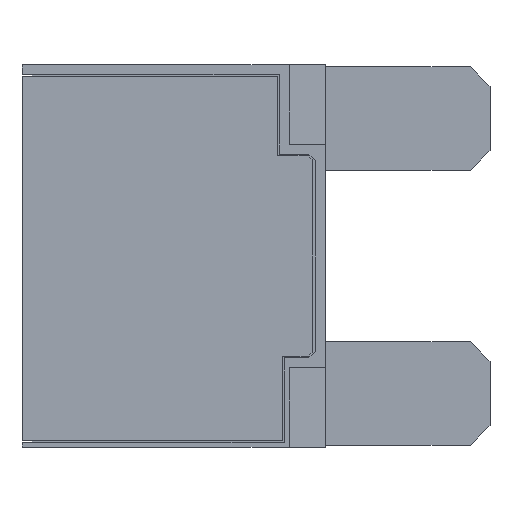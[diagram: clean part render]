
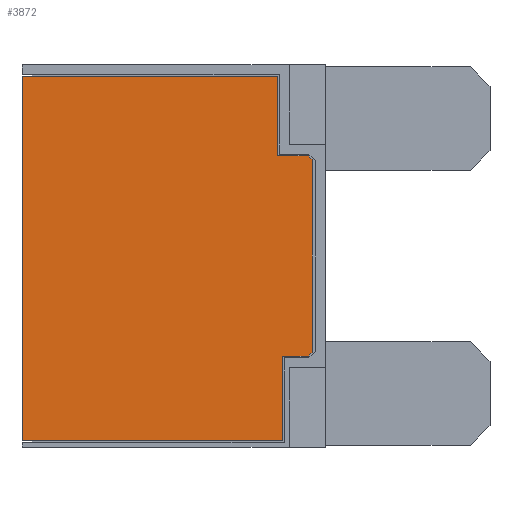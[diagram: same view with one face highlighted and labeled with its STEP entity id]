
A CAD part, left-side view. The second image highlights one B-rep face of the part: STEP entity #3872.
In plain terms, the highlighted planar face has unit normal (-1, 0, 0).
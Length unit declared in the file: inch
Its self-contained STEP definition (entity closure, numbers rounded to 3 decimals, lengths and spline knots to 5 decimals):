
#241=FACE_OUTER_BOUND('',#457,.T.);
#457=EDGE_LOOP('',(#3235,#3236,#3237,#3238,#3239,#3240,#3241,#3242,#3243,
#3244));
#891=LINE('',#6627,#1321);
#903=LINE('',#6656,#1333);
#907=LINE('',#6663,#1337);
#910=LINE('',#6669,#1340);
#913=LINE('',#6675,#1343);
#916=LINE('',#6681,#1346);
#919=LINE('',#6687,#1349);
#922=LINE('',#6693,#1352);
#923=LINE('',#6695,#1353);
#924=LINE('',#6696,#1354);
#1321=VECTOR('',#4465,0.3937);
#1333=VECTOR('',#4487,0.3937);
#1337=VECTOR('',#4493,0.3937);
#1340=VECTOR('',#4498,0.3937);
#1343=VECTOR('',#4503,0.3937);
#1346=VECTOR('',#4508,0.3937);
#1349=VECTOR('',#4513,0.3937);
#1352=VECTOR('',#4518,0.3937);
#1353=VECTOR('',#4521,0.3937);
#1354=VECTOR('',#4522,0.3937);
#1761=VERTEX_POINT('',#6624);
#1762=VERTEX_POINT('',#6626);
#1773=VERTEX_POINT('',#6653);
#1774=VERTEX_POINT('',#6655);
#1776=VERTEX_POINT('',#6661);
#1778=VERTEX_POINT('',#6667);
#1780=VERTEX_POINT('',#6673);
#1782=VERTEX_POINT('',#6679);
#1784=VERTEX_POINT('',#6685);
#1786=VERTEX_POINT('',#6691);
#2261=EDGE_CURVE('',#1761,#1762,#891,.T.);
#2273=EDGE_CURVE('',#1773,#1774,#903,.T.);
#2277=EDGE_CURVE('',#1776,#1773,#907,.T.);
#2280=EDGE_CURVE('',#1778,#1776,#910,.T.);
#2283=EDGE_CURVE('',#1780,#1778,#913,.T.);
#2286=EDGE_CURVE('',#1782,#1780,#916,.T.);
#2289=EDGE_CURVE('',#1784,#1782,#919,.T.);
#2292=EDGE_CURVE('',#1786,#1784,#922,.T.);
#2293=EDGE_CURVE('',#1774,#1761,#923,.T.);
#2294=EDGE_CURVE('',#1762,#1786,#924,.T.);
#3235=ORIENTED_EDGE('',*,*,#2293,.F.);
#3236=ORIENTED_EDGE('',*,*,#2273,.F.);
#3237=ORIENTED_EDGE('',*,*,#2277,.F.);
#3238=ORIENTED_EDGE('',*,*,#2280,.F.);
#3239=ORIENTED_EDGE('',*,*,#2283,.F.);
#3240=ORIENTED_EDGE('',*,*,#2286,.F.);
#3241=ORIENTED_EDGE('',*,*,#2289,.F.);
#3242=ORIENTED_EDGE('',*,*,#2292,.F.);
#3243=ORIENTED_EDGE('',*,*,#2294,.F.);
#3244=ORIENTED_EDGE('',*,*,#2261,.F.);
#3658=PLANE('',#4029);
#3872=ADVANCED_FACE('',(#241),#3658,.F.);
#4029=AXIS2_PLACEMENT_3D('',#6694,#4519,#4520);
#4465=DIRECTION('',(0.,0.,1.));
#4487=DIRECTION('',(0.,0.,-1.));
#4493=DIRECTION('',(0.,1.,0.));
#4498=DIRECTION('',(0.,0.707,-0.707));
#4503=DIRECTION('',(0.,0.,-1.));
#4508=DIRECTION('',(0.,-0.707,-0.707));
#4513=DIRECTION('',(0.,-1.,0.));
#4518=DIRECTION('',(0.,0.,-1.));
#4519=DIRECTION('center_axis',(1.,0.,0.));
#4520=DIRECTION('ref_axis',(0.,0.,-1.));
#4521=DIRECTION('',(0.,1.,0.));
#4522=DIRECTION('',(0.,-1.,0.));
#6624=CARTESIAN_POINT('',(-0.17992,0.,-0.56071));
#6626=CARTESIAN_POINT('',(-0.17992,0.,0.54571));
#6627=CARTESIAN_POINT('',(-0.17992,0.,-0.2841));
#6653=CARTESIAN_POINT('',(-0.17992,-0.79008,-0.30457));
#6655=CARTESIAN_POINT('',(-0.17992,-0.79008,-0.56071));
#6656=CARTESIAN_POINT('',(-0.17992,-0.79008,-0.30457));
#6661=CARTESIAN_POINT('',(-0.17992,-0.86801,-0.30457));
#6663=CARTESIAN_POINT('',(-0.17992,-0.86801,-0.30457));
#6667=CARTESIAN_POINT('',(-0.17992,-0.88008,-0.2925));
#6669=CARTESIAN_POINT('',(-0.17992,-0.88008,-0.2925));
#6673=CARTESIAN_POINT('',(-0.17992,-0.88008,0.2925));
#6675=CARTESIAN_POINT('',(-0.17992,-0.88008,0.2925));
#6679=CARTESIAN_POINT('',(-0.17992,-0.86801,0.30457));
#6681=CARTESIAN_POINT('',(-0.17992,-0.86801,0.30457));
#6685=CARTESIAN_POINT('',(-0.17992,-0.77508,0.30457));
#6687=CARTESIAN_POINT('',(-0.17992,-0.77508,0.30457));
#6691=CARTESIAN_POINT('',(-0.17992,-0.77508,0.54571));
#6693=CARTESIAN_POINT('',(-0.17992,-0.77508,0.54571));
#6694=CARTESIAN_POINT('Origin',(-0.17992,-0.44108,-0.00811));
#6695=CARTESIAN_POINT('',(-0.17992,-0.03,-0.56071));
#6696=CARTESIAN_POINT('',(-0.17992,-0.03,0.54571));
